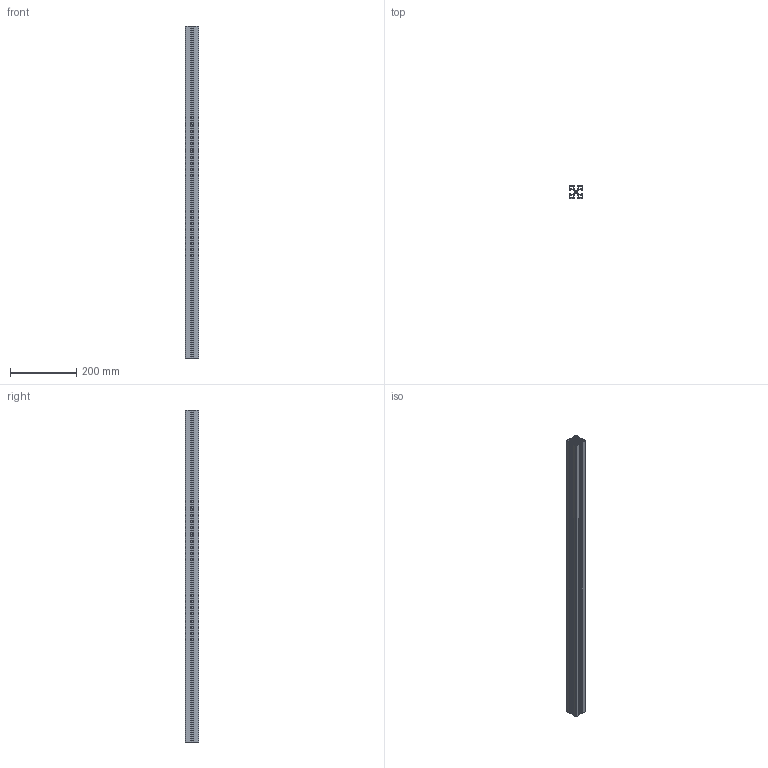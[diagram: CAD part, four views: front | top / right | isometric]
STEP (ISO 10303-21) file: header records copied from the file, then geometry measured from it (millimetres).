
FILE_DESCRIPTION((''),'2;1');
FILE_NAME('\\Dtp_2\share\iriguchi2\M8フレーム\AFS-4040F-8.stp','2014-12-01T11:57:40',('AMS8'),(''),'Autodesk Inventor 2008','Autodesk Inventor 2008','');
FILE_SCHEMA(('AUTOMOTIVE_DESIGN { 1 0 10303 214 1 1 1 1 }'));
Length unit declared in the file: millimetre
Products named in the file (1): Part49
Bounding box: 40 x 40 x 1000 mm (x, y, z)
Volume: 458705.9 mm3; surface area: 522487.7 mm2
Topology: 1 solids, 1 shells, 171 faces, 507 edges, 338 vertices
Faces by surface type: cylinder 89, plane 82
Full cylindrical faces by diameter (mm): 6.8 x1
Entity records: 5820 total; most frequent: DIRECTION 1028, CARTESIAN_POINT 1016, ORIENTED_EDGE 1012, EDGE_CURVE 506, AXIS2_PLACEMENT_3D 350, VERTEX_POINT 338, VECTOR 328, LINE 328
